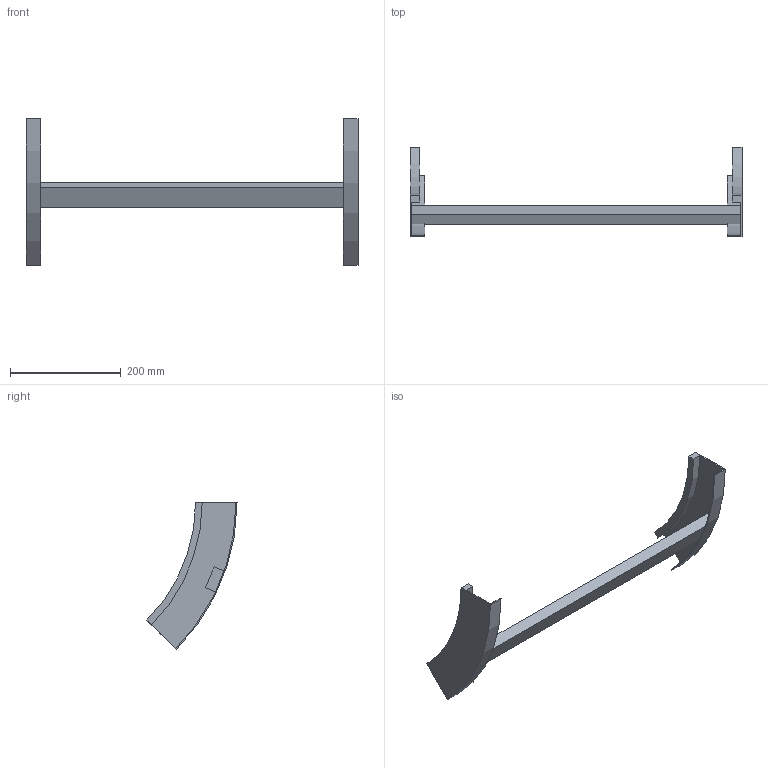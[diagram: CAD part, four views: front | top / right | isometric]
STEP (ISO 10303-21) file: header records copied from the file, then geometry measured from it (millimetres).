
FILE_DESCRIPTION (( 'STEP AP214' ), '1' );
FILE_NAME ('B2X31B3C600XX.step', '2025-03-20T10:10:29', ( '' ), ( '' ), 'SwSTEP 2.0', 'SolidWorks 2023', '' );
FILE_SCHEMA (( 'AUTOMOTIVE_DESIGN' ));
Length unit declared in the file: millimetre
Products named in the file (3): TRAVERSINO_600; B2X31B3C600XX; B2_LONGH.SALITA_45°_H75_R300
Assembly tree (3 placements, depth 2):
  B2X31B3C600XX
    B2_LONGH.SALITA_45°_H75_R300  x2
    TRAVERSINO_600
Bounding box: 600 x 162.87 x 265.17 mm (x, y, z)
Volume: 683942.9 mm3; surface area: 201701.3 mm2
Topology: 3 solids, 3 shells, 26 faces, 60 edges, 40 vertices
Faces by surface type: plane 18, cylinder 8
Entity records: 544 total; most frequent: DIRECTION 88, CARTESIAN_POINT 82, ORIENTED_EDGE 72, EDGE_CURVE 36, AXIS2_PLACEMENT_3D 30, LINE 28, VECTOR 28, VERTEX_POINT 24
